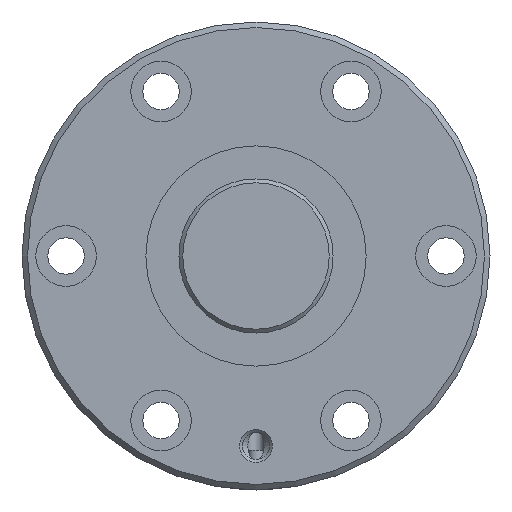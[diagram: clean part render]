
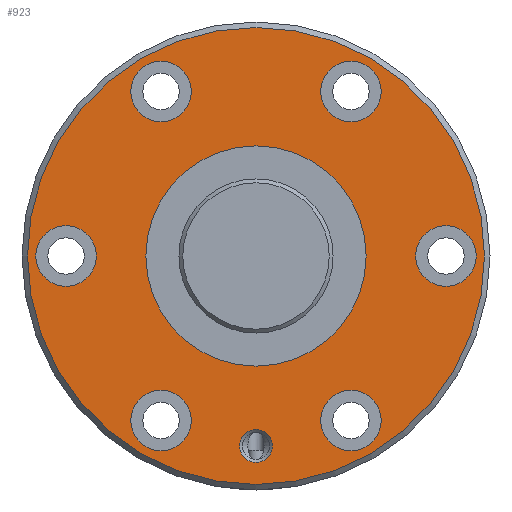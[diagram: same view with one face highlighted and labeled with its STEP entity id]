
A CAD part, left-side view. The second image highlights one B-rep face of the part: STEP entity #923.
In plain terms, the highlighted planar face has unit normal (-1, 0, 0).
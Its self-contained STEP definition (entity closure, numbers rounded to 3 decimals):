
#154=ORIENTED_EDGE('',*,*,#357,.T.);
#155=ORIENTED_EDGE('',*,*,#358,.T.);
#156=ORIENTED_EDGE('',*,*,#359,.T.);
#157=ORIENTED_EDGE('',*,*,#360,.T.);
#158=ORIENTED_EDGE('',*,*,#361,.T.);
#159=ORIENTED_EDGE('',*,*,#362,.T.);
#160=ORIENTED_EDGE('',*,*,#363,.T.);
#161=ORIENTED_EDGE('',*,*,#364,.T.);
#162=ORIENTED_EDGE('',*,*,#356,.F.);
#356=EDGE_CURVE('',#461,#461,#545,.T.);
#357=EDGE_CURVE('',#462,#462,#546,.T.);
#358=EDGE_CURVE('',#463,#463,#547,.F.);
#359=EDGE_CURVE('',#464,#464,#548,.T.);
#360=EDGE_CURVE('',#465,#465,#549,.T.);
#361=EDGE_CURVE('',#466,#466,#550,.T.);
#362=EDGE_CURVE('',#467,#467,#551,.T.);
#363=EDGE_CURVE('',#468,#468,#552,.T.);
#364=EDGE_CURVE('',#469,#469,#553,.T.);
#461=VERTEX_POINT('',#1548);
#462=VERTEX_POINT('',#1551);
#463=VERTEX_POINT('',#1553);
#464=VERTEX_POINT('',#1555);
#465=VERTEX_POINT('',#1557);
#466=VERTEX_POINT('',#1559);
#467=VERTEX_POINT('',#1561);
#468=VERTEX_POINT('',#1563);
#469=VERTEX_POINT('',#1565);
#545=CIRCLE('',#1030,41.5);
#546=CIRCLE('',#1032,20.);
#547=CIRCLE('',#1033,5.5);
#548=CIRCLE('',#1034,3.);
#549=CIRCLE('',#1035,5.5);
#550=CIRCLE('',#1036,5.5);
#551=CIRCLE('',#1037,5.5);
#552=CIRCLE('',#1038,5.5);
#553=CIRCLE('',#1039,5.5);
#626=EDGE_LOOP('',(#154));
#627=EDGE_LOOP('',(#155));
#628=EDGE_LOOP('',(#156));
#629=EDGE_LOOP('',(#157));
#630=EDGE_LOOP('',(#158));
#631=EDGE_LOOP('',(#159));
#632=EDGE_LOOP('',(#160));
#633=EDGE_LOOP('',(#161));
#634=EDGE_LOOP('',(#162));
#766=FACE_BOUND('',#626,.T.);
#767=FACE_BOUND('',#627,.T.);
#768=FACE_BOUND('',#628,.T.);
#769=FACE_BOUND('',#629,.T.);
#770=FACE_BOUND('',#630,.T.);
#771=FACE_BOUND('',#631,.T.);
#772=FACE_BOUND('',#632,.T.);
#773=FACE_BOUND('',#633,.T.);
#774=FACE_BOUND('',#634,.T.);
#888=PLANE('',#1031);
#923=ADVANCED_FACE('',(#766,#767,#768,#769,#770,#771,#772,#773,#774),#888,
 .T.);
#1030=AXIS2_PLACEMENT_3D('',#1547,#1198,#1199);
#1031=AXIS2_PLACEMENT_3D('',#1549,#1200,#1201);
#1032=AXIS2_PLACEMENT_3D('',#1550,#1202,#1203);
#1033=AXIS2_PLACEMENT_3D('',#1552,#1204,#1205);
#1034=AXIS2_PLACEMENT_3D('',#1554,#1206,#1207);
#1035=AXIS2_PLACEMENT_3D('',#1556,#1208,#1209);
#1036=AXIS2_PLACEMENT_3D('',#1558,#1210,#1211);
#1037=AXIS2_PLACEMENT_3D('',#1560,#1212,#1213);
#1038=AXIS2_PLACEMENT_3D('',#1562,#1214,#1215);
#1039=AXIS2_PLACEMENT_3D('',#1564,#1216,#1217);
#1198=DIRECTION('',(1.,0.,0.));
#1199=DIRECTION('',(0.,0.,-1.));
#1200=DIRECTION('',(-1.,0.,0.));
#1201=DIRECTION('',(0.,0.,1.));
#1202=DIRECTION('',(1.,0.,0.));
#1203=DIRECTION('',(0.,0.,-1.));
#1204=DIRECTION('',(-1.,0.,0.));
#1205=DIRECTION('',(0.,0.,1.));
#1206=DIRECTION('',(1.,0.,0.));
#1207=DIRECTION('',(0.,0.,-1.));
#1208=DIRECTION('',(1.,0.,0.));
#1209=DIRECTION('',(0.,0.,-1.));
#1210=DIRECTION('',(1.,0.,0.));
#1211=DIRECTION('',(0.,0.,-1.));
#1212=DIRECTION('',(1.,0.,0.));
#1213=DIRECTION('',(0.,0.,-1.));
#1214=DIRECTION('',(1.,0.,0.));
#1215=DIRECTION('',(0.,0.,-1.));
#1216=DIRECTION('',(1.,0.,0.));
#1217=DIRECTION('',(0.,0.,-1.));
#1547=CARTESIAN_POINT('',(0.,0.,0.));
#1548=CARTESIAN_POINT('',(0.,0.,-41.5));
#1549=CARTESIAN_POINT('',(0.,41.5,0.));
#1550=CARTESIAN_POINT('',(0.,0.,0.));
#1551=CARTESIAN_POINT('',(0.,0.,-20.));
#1552=CARTESIAN_POINT('',(0.,34.5,0.));
#1553=CARTESIAN_POINT('',(0.,34.5,5.5));
#1554=CARTESIAN_POINT('',(0.,0.,-34.5));
#1555=CARTESIAN_POINT('',(0.,0.,-37.5));
#1556=CARTESIAN_POINT('',(0.,-34.5,0.));
#1557=CARTESIAN_POINT('',(0.,-34.5,-5.5));
#1558=CARTESIAN_POINT('',(0.,17.25,29.878));
#1559=CARTESIAN_POINT('',(0.,17.25,24.378));
#1560=CARTESIAN_POINT('',(0.,-17.25,-29.878));
#1561=CARTESIAN_POINT('',(0.,-17.25,-35.378));
#1562=CARTESIAN_POINT('',(0.,-17.25,29.878));
#1563=CARTESIAN_POINT('',(0.,-17.25,24.378));
#1564=CARTESIAN_POINT('',(0.,17.25,-29.878));
#1565=CARTESIAN_POINT('',(0.,17.25,-35.378));
